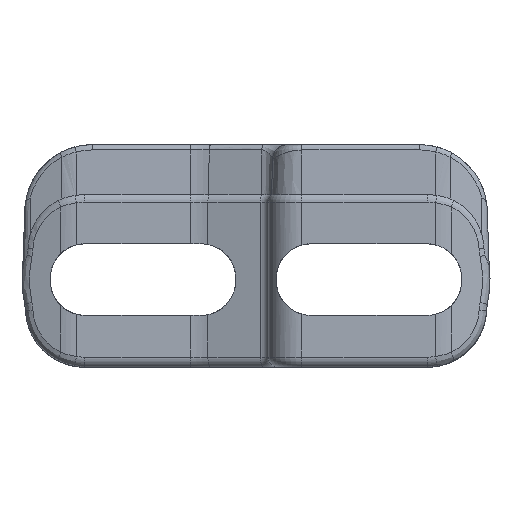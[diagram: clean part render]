
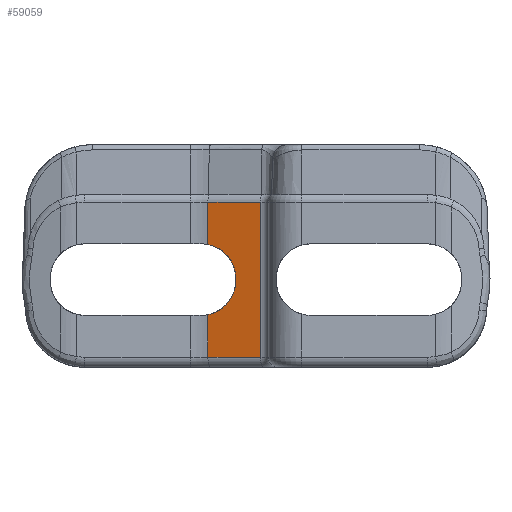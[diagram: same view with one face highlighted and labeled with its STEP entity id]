
A CAD part, left-side view. The second image highlights one B-rep face of the part: STEP entity #59059.
In plain terms, the highlighted planar face has unit normal (-0.967, 0.257, 0).
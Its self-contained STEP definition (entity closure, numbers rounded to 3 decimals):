
#14559=DIRECTION('',(0.,0.,1.));
#14560=VECTOR('',#14559,11.5);
#14561=CARTESIAN_POINT('',(-32.627,-0.343,-5.75));
#14562=LINE('',#14561,#14560);
#18243=DIRECTION('',(0.,0.,-1.));
#18244=VECTOR('',#18243,3.146);
#18245=CARTESIAN_POINT('',(-31.588,3.569,5.75));
#18246=LINE('',#18245,#18244);
#18254=DIRECTION('',(0.,0.,-1.));
#18255=VECTOR('',#18254,3.146);
#18256=CARTESIAN_POINT('',(-31.588,3.569,
-2.604));
#18257=LINE('',#18256,#18255);
#18272=CARTESIAN_POINT('',(-31.588,3.569,
2.604));
#18273=CARTESIAN_POINT('',(-31.633,3.399,
2.572));
#18274=CARTESIAN_POINT('',(-31.714,3.093,
2.478));
#18275=CARTESIAN_POINT('',(-31.852,2.572,
2.212));
#18276=CARTESIAN_POINT('',(-31.989,2.06,
1.76));
#18277=CARTESIAN_POINT('',(-32.083,1.706,
1.173));
#18278=CARTESIAN_POINT('',(-32.128,1.536,
0.604));
#18279=CARTESIAN_POINT('',(-32.137,1.5,0.279));
#18280=CARTESIAN_POINT('',(-32.137,1.5,0.1));
#18282=DIRECTION('',(-0.257,-0.966,0.));
#18283=VECTOR('',#18282,4.047);
#18284=CARTESIAN_POINT('',(-31.588,3.569,5.75));
#18285=LINE('',#18284,#18283);
#18286=DIRECTION('',(0.257,0.966,0.));
#18287=VECTOR('',#18286,4.047);
#18288=CARTESIAN_POINT('',(-32.627,-0.343,-5.75));
#18289=LINE('',#18288,#18287);
#18290=CARTESIAN_POINT('',(-32.137,1.5,-0.1));
#18291=CARTESIAN_POINT('',(-32.137,1.5,
-0.279));
#18292=CARTESIAN_POINT('',(-32.128,1.536,
-0.604));
#18293=CARTESIAN_POINT('',(-32.083,1.706,
-1.173));
#18294=CARTESIAN_POINT('',(-31.989,2.06,
-1.76));
#18295=CARTESIAN_POINT('',(-31.852,2.572,
-2.212));
#18296=CARTESIAN_POINT('',(-31.714,3.093,
-2.478));
#18297=CARTESIAN_POINT('',(-31.633,3.399,
-2.572));
#18298=CARTESIAN_POINT('',(-31.588,3.569,
-2.604));
#18300=DIRECTION('',(0.,0.,-1.));
#18301=VECTOR('',#18300,0.2);
#18302=CARTESIAN_POINT('',(-32.137,1.5,0.1));
#18303=LINE('',#18302,#18301);
#25209=CARTESIAN_POINT('',(-32.627,-0.343,-5.75));
#25210=VERTEX_POINT('',#25209);
#25213=CARTESIAN_POINT('',(-31.588,3.569,-5.75));
#25214=VERTEX_POINT('',#25213);
#25238=CARTESIAN_POINT('',(-31.588,3.569,5.75));
#25239=VERTEX_POINT('',#25238);
#25240=CARTESIAN_POINT('',(-32.627,-0.343,5.75));
#25241=VERTEX_POINT('',#25240);
#25843=VERTEX_POINT('',#18272);
#25844=VERTEX_POINT('',#18280);
#25845=CARTESIAN_POINT('',(-32.137,1.5,-0.1));
#25846=VERTEX_POINT('',#25845);
#25847=VERTEX_POINT('',#18298);
#59044=CARTESIAN_POINT('',(-31.42,4.2,0.));
#59045=DIRECTION('',(-0.966,0.257,0.));
#59046=DIRECTION('',(-0.257,-0.966,0.));
#59047=AXIS2_PLACEMENT_3D('',#59044,#59045,#59046);
#59048=PLANE('',#59047);
#59049=ORIENTED_EDGE('',*,*,#55123,.F.);
#59050=ORIENTED_EDGE('',*,*,#59025,.F.);
#59051=ORIENTED_EDGE('',*,*,#52896,.T.);
#59052=ORIENTED_EDGE('',*,*,#53226,.F.);
#59053=ORIENTED_EDGE('',*,*,#53254,.T.);
#59054=ORIENTED_EDGE('',*,*,#59036,.F.);
#59055=ORIENTED_EDGE('',*,*,#57361,.F.);
#59056=ORIENTED_EDGE('',*,*,#57283,.F.);
#59057=EDGE_LOOP('',(#59049,#59050,#59051,#59052,#59053,#59054,#59055,#59056));
#59058=FACE_OUTER_BOUND('',#59057,.F.);
#18281=B_SPLINE_CURVE_WITH_KNOTS('',3,(#18272,#18273,#18274,#18275,#18276,
#18277,#18278,#18279,#18280),.UNSPECIFIED.,.F.,.F.,(4,1,1,1,1,1,4),(0.,
0.125,0.25,0.5,0.75,0.875,1.),.UNSPECIFIED.);
#18299=B_SPLINE_CURVE_WITH_KNOTS('',3,(#18290,#18291,#18292,#18293,#18294,
#18295,#18296,#18297,#18298),.UNSPECIFIED.,.F.,.F.,(4,1,1,1,1,1,4),(0.,
0.125,0.25,0.5,0.75,0.875,1.),.UNSPECIFIED.);
#52896=EDGE_CURVE('',#25239,#25241,#18285,.T.);
#53226=EDGE_CURVE('',#25210,#25241,#14562,.T.);
#53254=EDGE_CURVE('',#25210,#25214,#18289,.T.);
#55123=EDGE_CURVE('',#25843,#25844,#18281,.T.);
#57283=EDGE_CURVE('',#25844,#25846,#18303,.T.);
#57361=EDGE_CURVE('',#25846,#25847,#18299,.T.);
#59025=EDGE_CURVE('',#25239,#25843,#18246,.T.);
#59036=EDGE_CURVE('',#25847,#25214,#18257,.T.);
#59059=ADVANCED_FACE('',(#59058),#59048,.T.);
